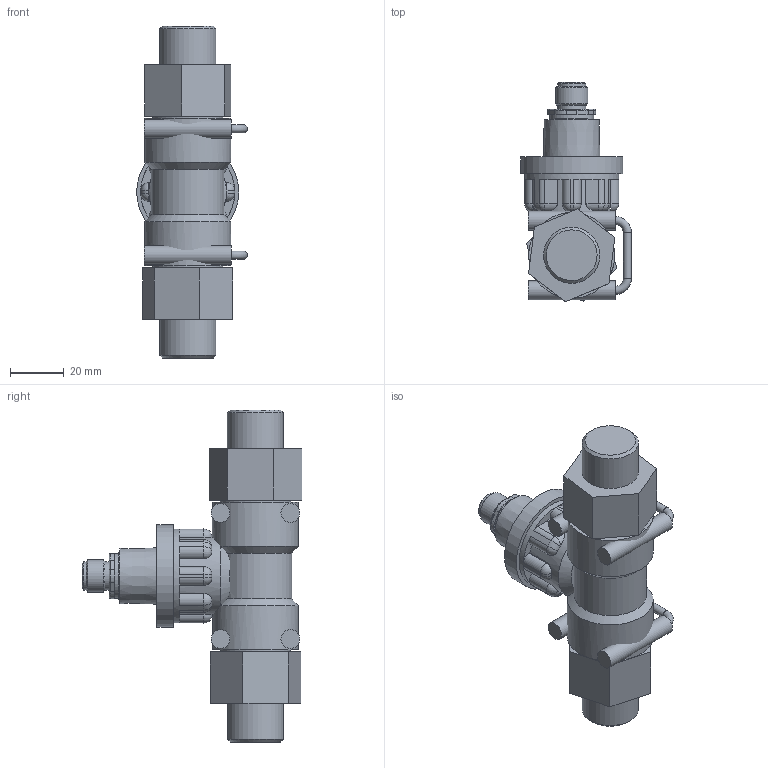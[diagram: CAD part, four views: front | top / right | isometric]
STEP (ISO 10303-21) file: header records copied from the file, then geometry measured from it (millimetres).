
FILE_DESCRIPTION(/* description */ (''),/* implementation_level */ '2;1');
FILE_NAME(/* name */ 'T:\Drawings\Customer Data\3D Customer Models\FT2_Assembly_Shrinkwrap_1.stp',/* time_stamp */ '2014-09-15T11:12:09+01:00',/* author */ ('Stevem'),/* organization */ (''),/* preprocessor_version */ 'ST-DEVELOPER v15.2',/* originating_system */ 'Autodesk Inventor 2014',/* authorisation */ '');
FILE_SCHEMA (('AUTOMOTIVE_DESIGN { 1 0 10303 214 3 1 1 }'));
Length unit declared in the file: millimetre
Products named in the file (1): FT2_Assembly_Shrinkwrap_1
Bounding box: 41.2 x 81.77 x 123.56 mm (x, y, z)
Surface area: 28462.6 mm2 (no closed solid volume)
Topology: 0 solids, 21 shells, 172 faces, 405 edges, 252 vertices
Faces by surface type: plane 66, cylinder 62, torus 18, sphere 16, cone 10
Full cylindrical faces by diameter (mm): 3 x2, 7 x4, 10.5 x2, 12 x1, 16.45 x1, 20.9 x2, 26.15 x2, 29 x1, 32 x2, 35 x1, 38 x1
Entity records: 5100 total; most frequent: CARTESIAN_POINT 1015, DIRECTION 874, ORIENTED_EDGE 694, EDGE_CURVE 372, AXIS2_PLACEMENT_3D 359, VERTEX_POINT 248, EDGE_LOOP 201, CIRCLE 186
